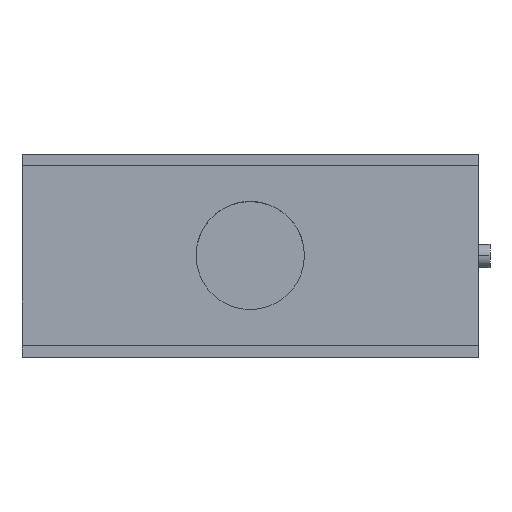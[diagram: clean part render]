
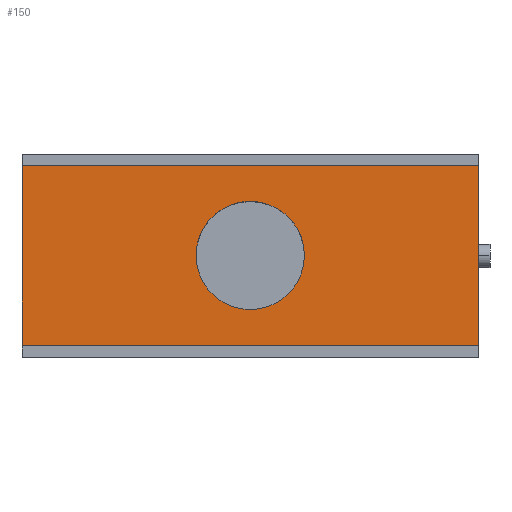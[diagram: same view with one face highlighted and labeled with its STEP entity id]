
A CAD part, top view. The second image highlights one B-rep face of the part: STEP entity #150.
In plain terms, the highlighted planar face has unit normal (0, 0, 1).
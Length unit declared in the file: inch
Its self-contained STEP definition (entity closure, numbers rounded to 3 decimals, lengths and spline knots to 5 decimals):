
#74 = VERTEX_POINT ( 'NONE', #519 ) ;
#76 = EDGE_CURVE ( 'NONE', #121, #74, #418, .T. ) ;
#121 = VERTEX_POINT ( 'NONE', #629 ) ;
#124 = ORIENTED_EDGE ( 'NONE', *, *, #76, .F. ) ;
#129 = VERTEX_POINT ( 'NONE', #595 ) ;
#130 = ORIENTED_EDGE ( 'NONE', *, *, #131, .T. ) ;
#131 = EDGE_CURVE ( 'NONE', #129, #147, #556, .T. ) ;
#132 = ORIENTED_EDGE ( 'NONE', *, *, #136, .F. ) ;
#134 = EDGE_LOOP ( 'NONE', ( #135, #124 ) ) ;
#135 = ORIENTED_EDGE ( 'NONE', *, *, #140, .F. ) ;
#136 = EDGE_CURVE ( 'NONE', #129, #170, #590, .T. ) ;
#140 = EDGE_CURVE ( 'NONE', #74, #121, #646, .T. ) ;
#146 = ORIENTED_EDGE ( 'NONE', *, *, #156, .F. ) ;
#147 = VERTEX_POINT ( 'NONE', #624 ) ;
#150 = ADVANCED_FACE ( 'NONE', ( #593, #592 ), #604, .F. ) ;
#153 = ORIENTED_EDGE ( 'NONE', *, *, #154, .T. ) ;
#154 = EDGE_CURVE ( 'NONE', #147, #161, #615, .T. ) ;
#155 = EDGE_LOOP ( 'NONE', ( #153, #146, #132, #130 ) ) ;
#156 = EDGE_CURVE ( 'NONE', #170, #161, #571, .T. ) ;
#161 = VERTEX_POINT ( 'NONE', #582 ) ;
#170 = VERTEX_POINT ( 'NONE', #578 ) ;
#415 = DIRECTION ( 'NONE',  ( 1., 0., 0. ) ) ;
#416 = DIRECTION ( 'NONE',  ( 0., 0., 1. ) ) ;
#417 = AXIS2_PLACEMENT_3D ( 'NONE', #518, #416, #415 ) ;
#418 = CIRCLE ( 'NONE', #417, 0.58595 ) ;
#518 = CARTESIAN_POINT ( 'NONE',  ( 2.47, 0.97, 7. ) ) ;
#519 = CARTESIAN_POINT ( 'NONE',  ( 3.05595, 0.97, 7. ) ) ;
#548 = DIRECTION ( 'NONE',  ( -1., 0., 0. ) ) ;
#549 = DIRECTION ( 'NONE',  ( 0., 0., -1. ) ) ;
#550 = AXIS2_PLACEMENT_3D ( 'NONE', #603, #549, #548 ) ;
#553 = DIRECTION ( 'NONE',  ( 0., -1., 0. ) ) ;
#555 = CARTESIAN_POINT ( 'NONE',  ( 0., 1.94, 7. ) ) ;
#556 = LINE ( 'NONE', #555, #594 ) ;
#566 = VECTOR ( 'NONE', #607, 39.37008 ) ;
#567 = CARTESIAN_POINT ( 'NONE',  ( -4.19959, 0., 7. ) ) ;
#568 = DIRECTION ( 'NONE',  ( 0., -1., 0. ) ) ;
#569 = VECTOR ( 'NONE', #568, 39.37008 ) ;
#570 = CARTESIAN_POINT ( 'NONE',  ( 4.94, 1.94, 7. ) ) ;
#571 = LINE ( 'NONE', #570, #569 ) ;
#578 = CARTESIAN_POINT ( 'NONE',  ( 4.94, 1.94, 7. ) ) ;
#582 = CARTESIAN_POINT ( 'NONE',  ( 4.94, 0., 7. ) ) ;
#590 = LINE ( 'NONE', #618, #617 ) ;
#592 = FACE_BOUND ( 'NONE', #134, .T. ) ;
#593 = FACE_OUTER_BOUND ( 'NONE', #155, .T. ) ;
#594 = VECTOR ( 'NONE', #553, 39.37008 ) ;
#595 = CARTESIAN_POINT ( 'NONE',  ( 0., 1.94, 7. ) ) ;
#603 = CARTESIAN_POINT ( 'NONE',  ( -4.19959, 1.94, 7. ) ) ;
#604 = PLANE ( 'NONE',  #550 ) ;
#607 = DIRECTION ( 'NONE',  ( 1., 0., 0. ) ) ;
#615 = LINE ( 'NONE', #567, #566 ) ;
#616 = DIRECTION ( 'NONE',  ( 1., 0., 0. ) ) ;
#617 = VECTOR ( 'NONE', #616, 39.37008 ) ;
#618 = CARTESIAN_POINT ( 'NONE',  ( -4.19959, 1.94, 7. ) ) ;
#621 = DIRECTION ( 'NONE',  ( 1., 0., 0. ) ) ;
#622 = DIRECTION ( 'NONE',  ( 0., 0., 1. ) ) ;
#623 = CARTESIAN_POINT ( 'NONE',  ( 2.47, 0.97, 7. ) ) ;
#624 = CARTESIAN_POINT ( 'NONE',  ( 0., 0., 7. ) ) ;
#629 = CARTESIAN_POINT ( 'NONE',  ( 1.88405, 0.97, 7. ) ) ;
#633 = AXIS2_PLACEMENT_3D ( 'NONE', #623, #622, #621 ) ;
#646 = CIRCLE ( 'NONE', #633, 0.58595 ) ;
